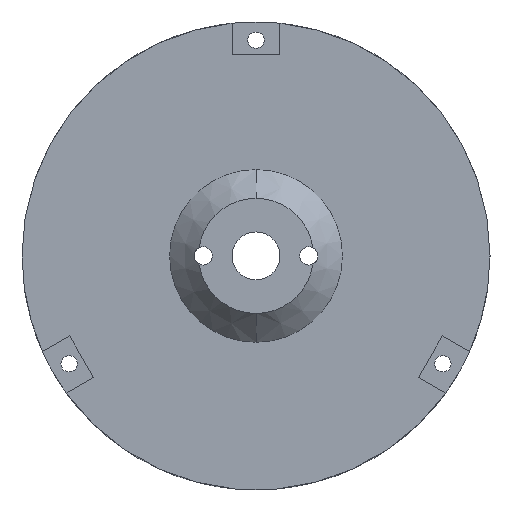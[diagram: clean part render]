
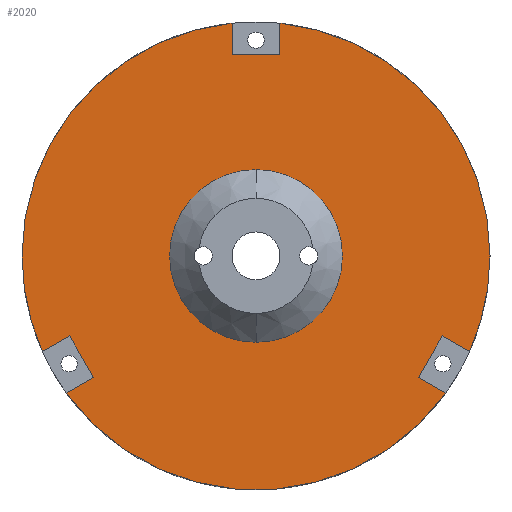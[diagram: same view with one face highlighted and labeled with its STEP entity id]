
A CAD part, top view. The second image highlights one B-rep face of the part: STEP entity #2020.
In plain terms, the highlighted planar face has unit normal (0, 0, 1).
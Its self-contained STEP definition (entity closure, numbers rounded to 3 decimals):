
#735=CARTESIAN_POINT('',(0.,0.,5.));
#736=DIRECTION('',(0.,0.,1.));
#737=DIRECTION('',(-0.102,0.995,0.));
#738=AXIS2_PLACEMENT_3D('',#735,#736,#737);
#743=CARTESIAN_POINT('',(0.,0.,5.));
#744=DIRECTION('',(0.,0.,1.));
#745=DIRECTION('',(1.,0.,0.));
#746=AXIS2_PLACEMENT_3D('',#743,#744,#745);
#751=CARTESIAN_POINT('',(0.,0.,5.));
#752=DIRECTION('',(0.,0.,1.));
#753=DIRECTION('',(0.913,-0.409,0.));
#754=AXIS2_PLACEMENT_3D('',#751,#752,#753);
#759=DIRECTION('',(0.866,-0.5,0.));
#760=VECTOR('',#759,6.543);
#761=CARTESIAN_POINT('',(38.873,-16.67,5.));
#762=LINE('',#761,#760);
#766=DIRECTION('',(0.5,0.866,0.));
#767=VECTOR('',#766,10.);
#768=CARTESIAN_POINT('',(33.873,-25.33,5.));
#769=LINE('',#768,#767);
#773=DIRECTION('',(-0.866,0.5,0.));
#774=VECTOR('',#773,6.543);
#775=CARTESIAN_POINT('',(39.54,-28.602,5.));
#776=LINE('',#775,#774);
#780=CARTESIAN_POINT('',(0.,0.,5.));
#781=DIRECTION('',(0.,0.,1.));
#782=DIRECTION('',(-0.81,-0.586,0.));
#783=AXIS2_PLACEMENT_3D('',#780,#781,#782);
#788=DIRECTION('',(-0.866,-0.5,0.));
#789=VECTOR('',#788,6.543);
#790=CARTESIAN_POINT('',(-33.873,-25.33,5.));
#791=LINE('',#790,#789);
#795=DIRECTION('',(0.5,-0.866,0.));
#796=VECTOR('',#795,10.);
#797=CARTESIAN_POINT('',(-38.873,-16.67,5.));
#798=LINE('',#797,#796);
#802=DIRECTION('',(0.866,0.5,0.));
#803=VECTOR('',#802,6.543);
#804=CARTESIAN_POINT('',(-44.54,-19.941,5.));
#805=LINE('',#804,#803);
#809=CARTESIAN_POINT('',(0.,0.,5.));
#810=DIRECTION('',(0.,0.,1.));
#811=DIRECTION('',(-1.,0.,0.));
#812=AXIS2_PLACEMENT_3D('',#809,#810,#811);
#817=CARTESIAN_POINT('',(0.,0.,5.));
#818=DIRECTION('',(0.,0.,-1.));
#819=DIRECTION('',(0.,-1.,0.));
#820=AXIS2_PLACEMENT_3D('',#817,#818,#819);
#825=CARTESIAN_POINT('',(0.,0.,5.));
#826=DIRECTION('',(0.,0.,-1.));
#827=DIRECTION('',(0.,1.,0.));
#828=AXIS2_PLACEMENT_3D('',#825,#826,#827);
#833=DIRECTION('',(0.,-1.,0.));
#834=VECTOR('',#833,6.543);
#835=CARTESIAN_POINT('',(-5.,48.543,5.));
#836=LINE('',#835,#834);
#840=DIRECTION('',(1.,0.,0.));
#841=VECTOR('',#840,10.);
#842=CARTESIAN_POINT('',(-5.,42.,5.));
#843=LINE('',#842,#841);
#854=DIRECTION('',(0.,1.,0.));
#855=VECTOR('',#854,6.543);
#856=CARTESIAN_POINT('',(5.,42.,5.));
#857=LINE('',#856,#855);
#1399=CARTESIAN_POINT('',(44.54,-19.941,5.));
#1400=CARTESIAN_POINT('',(48.8,0.,5.));
#1401=VERTEX_POINT('',#1399);
#1402=VERTEX_POINT('',#1400);
#1403=CARTESIAN_POINT('',(5.,48.543,5.));
#1404=VERTEX_POINT('',#1403);
#1405=CARTESIAN_POINT('',(5.,42.,5.));
#1406=VERTEX_POINT('',#1405);
#1407=CARTESIAN_POINT('',(-5.,42.,5.));
#1408=VERTEX_POINT('',#1407);
#1409=CARTESIAN_POINT('',(-5.,48.543,5.));
#1410=VERTEX_POINT('',#1409);
#1411=CARTESIAN_POINT('',(-44.54,-19.941,5.));
#1412=CARTESIAN_POINT('',(-38.873,-16.67,5.));
#1413=VERTEX_POINT('',#1411);
#1414=VERTEX_POINT('',#1412);
#1415=CARTESIAN_POINT('',(-33.873,-25.33,5.));
#1416=VERTEX_POINT('',#1415);
#1417=CARTESIAN_POINT('',(-39.54,-28.602,5.));
#1418=VERTEX_POINT('',#1417);
#1419=CARTESIAN_POINT('',(39.54,-28.602,5.));
#1420=VERTEX_POINT('',#1419);
#1421=CARTESIAN_POINT('',(33.873,-25.33,5.));
#1422=VERTEX_POINT('',#1421);
#1423=CARTESIAN_POINT('',(38.873,-16.67,5.));
#1424=VERTEX_POINT('',#1423);
#1484=CARTESIAN_POINT('',(0.,-18.,5.));
#1486=VERTEX_POINT('',#1484);
#1487=CARTESIAN_POINT('',(0.,18.,5.));
#1488=VERTEX_POINT('',#1487);
#1502=CARTESIAN_POINT('',(-48.8,0.,5.));
#1504=VERTEX_POINT('',#1502);
#1984=CARTESIAN_POINT('',(0.,0.,5.));
#1985=DIRECTION('',(0.,0.,1.));
#1986=DIRECTION('',(1.,0.,0.));
#1987=AXIS2_PLACEMENT_3D('',#1984,#1985,#1986);
#1988=PLANE('',#1987);
#1989=ORIENTED_EDGE('',*,*,#1926,.F.);
#1991=ORIENTED_EDGE('',*,*,#1990,.T.);
#1993=ORIENTED_EDGE('',*,*,#1992,.T.);
#1995=ORIENTED_EDGE('',*,*,#1994,.T.);
#1996=ORIENTED_EDGE('',*,*,#1918,.F.);
#1997=ORIENTED_EDGE('',*,*,#1965,.F.);
#1999=ORIENTED_EDGE('',*,*,#1998,.F.);
#2001=ORIENTED_EDGE('',*,*,#2000,.F.);
#2003=ORIENTED_EDGE('',*,*,#2002,.F.);
#2004=ORIENTED_EDGE('',*,*,#1957,.F.);
#2006=ORIENTED_EDGE('',*,*,#2005,.F.);
#2008=ORIENTED_EDGE('',*,*,#2007,.F.);
#2010=ORIENTED_EDGE('',*,*,#2009,.F.);
#2011=ORIENTED_EDGE('',*,*,#1949,.F.);
#2012=EDGE_LOOP('',(#1989,#1991,#1993,#1995,#1996,#1997,#1999,#2001,#2003,#2004,
#2006,#2008,#2010,#2011));
#2013=FACE_OUTER_BOUND('',#2012,.F.);
#2015=ORIENTED_EDGE('',*,*,#2014,.F.);
#2017=ORIENTED_EDGE('',*,*,#2016,.F.);
#2018=EDGE_LOOP('',(#2015,#2017));
#2019=FACE_BOUND('',#2018,.F.);
#739=CIRCLE('',#738,48.8);
#747=CIRCLE('',#746,48.8);
#755=CIRCLE('',#754,48.8);
#784=CIRCLE('',#783,48.8);
#813=CIRCLE('',#812,48.8);
#821=CIRCLE('',#820,18.);
#829=CIRCLE('',#828,18.);
#1918=EDGE_CURVE('',#1402,#1404,#747,.T.);
#1926=EDGE_CURVE('',#1410,#1504,#739,.T.);
#1949=EDGE_CURVE('',#1504,#1413,#813,.T.);
#1957=EDGE_CURVE('',#1418,#1420,#784,.T.);
#1965=EDGE_CURVE('',#1401,#1402,#755,.T.);
#1990=EDGE_CURVE('',#1410,#1408,#836,.T.);
#1992=EDGE_CURVE('',#1408,#1406,#843,.T.);
#1994=EDGE_CURVE('',#1406,#1404,#857,.T.);
#1998=EDGE_CURVE('',#1424,#1401,#762,.T.);
#2000=EDGE_CURVE('',#1422,#1424,#769,.T.);
#2002=EDGE_CURVE('',#1420,#1422,#776,.T.);
#2005=EDGE_CURVE('',#1416,#1418,#791,.T.);
#2007=EDGE_CURVE('',#1414,#1416,#798,.T.);
#2009=EDGE_CURVE('',#1413,#1414,#805,.T.);
#2014=EDGE_CURVE('',#1486,#1488,#821,.T.);
#2016=EDGE_CURVE('',#1488,#1486,#829,.T.);
#2020=ADVANCED_FACE('',(#2013,#2019),#1988,.T.);
